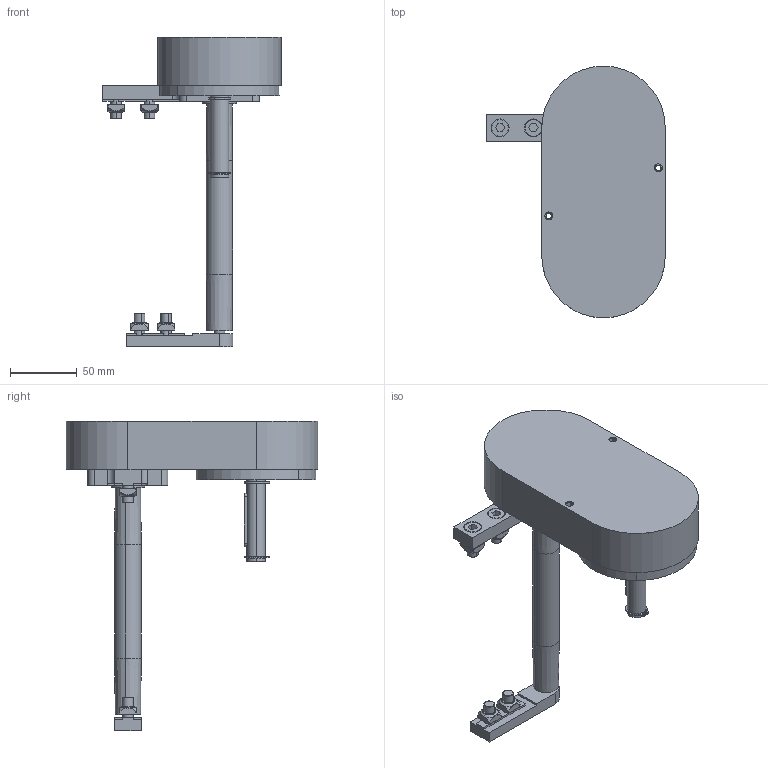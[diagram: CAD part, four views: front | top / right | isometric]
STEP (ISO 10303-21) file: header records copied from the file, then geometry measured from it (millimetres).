
FILE_DESCRIPTION (( 'STEP AP203' ), '1' );
FILE_NAME ('084.020.KT.30.150.STEP', '2019-07-29T09:26:46', ( '' ), ( '' ), 'SwSTEP 2.0', 'SolidWorks 2018', '' );
FILE_SCHEMA (( 'CONFIG_CONTROL_DESIGN' ));
Length unit declared in the file: millimetre
Products named in the file (26): Circlip DIN 471 - 8 x 0.8_Circlip DIN 471 - 8 x 0.8; Circlip DIN 471 - 14 x 1_Circlip DIN 471 - 14 x 1; 084.302.000 DADI ALUSIC 13x13-1_084.302.004; ISO 10642 - M5 x 16 --- 16S_ISO 10642 - M5 x 16 --- 16S; 084.800.006; 084.800.016; 084.800.008; 084.800.013; 084.800.003; 084.301.000 VITI ALUSIC_084.301.003; 084.800.010_084.800.010; 084.800.012; CHIAVETTE_A 5x5x40 UNI 6604-69; 084.800.002; 084.020.KT.30.150; 084.800.004; 084.800.001-1; 084.800.026; 084.802.016_084.802.016; 084.800.005; 084.800.009; CHIAVETTE_A 4x4x15 UNI 6604-69; 084.800.014; 084.800.015; 084.800.011; 084.800.007
Assembly tree (39 placements, depth 2):
  084.020.KT.30.150
    084.800.013  x2
    084.800.016
    084.800.026
    084.800.004
    084.800.005
    084.800.010_084.800.010  x2
    084.800.009
    084.800.011
    084.800.002
    084.800.001-1
    084.802.016_084.802.016
    084.800.007
    084.800.012  x2
    084.800.008
    084.800.006
    084.800.014
    084.800.015
    084.800.003
    Circlip DIN 471 - 14 x 1_Circlip DIN 471 - 14 x 1  x2
    CHIAVETTE_A 4x4x15 UNI 6604-69  x2
    CHIAVETTE_A 5x5x40 UNI 6604-69
    Circlip DIN 471 - 8 x 0.8_Circlip DIN 471 - 8 x 0.8
    084.301.000 VITI ALUSIC_084.301.003  x4
    084.302.000 DADI ALUSIC 13x13-1_084.302.004  x4
    ISO 10642 - M5 x 16 --- 16S_ISO 10642 - M5 x 16 --- 16S  x4
Bounding box: 133.75 x 188.5 x 232 mm (x, y, z)
Volume: 350608 mm3; surface area: 227737.7 mm2
Topology: 119 solids, 120 shells, 2545 faces, 6450 edges, 4185 vertices
Faces by surface type: cylinder 1189, plane 896, cone 326, bspline 82, torus 50, sphere 2
Entity records: 55074 total; most frequent: CARTESIAN_POINT 10070, DIRECTION 9370, ORIENTED_EDGE 8380, EDGE_CURVE 4190, AXIS2_PLACEMENT_3D 3569, VERTEX_POINT 2749, LINE 2232, VECTOR 2232
